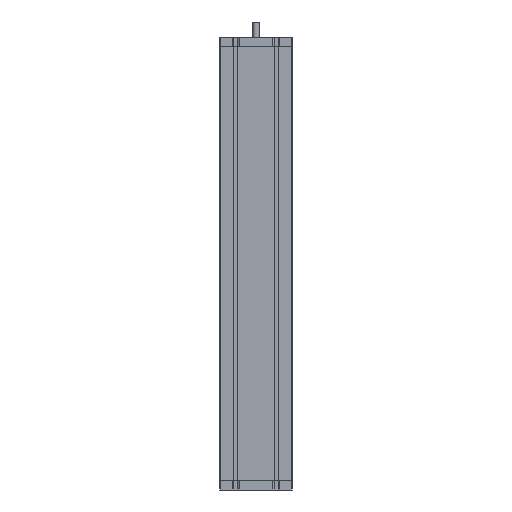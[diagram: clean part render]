
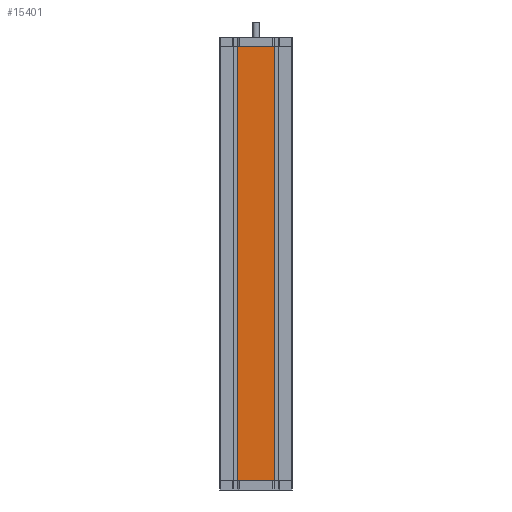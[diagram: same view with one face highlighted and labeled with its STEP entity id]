
A CAD part, front view. The second image highlights one B-rep face of the part: STEP entity #15401.
In plain terms, the highlighted planar face has unit normal (0, -1, 0).
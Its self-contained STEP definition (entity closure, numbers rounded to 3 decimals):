
#230 = ORIENTED_EDGE ( 'NONE', *, *, #13865, .T. ) ;
#345 = EDGE_CURVE ( 'NONE', #8070, #6546, #12404, .T. ) ;
#952 = ORIENTED_EDGE ( 'NONE', *, *, #345, .F. ) ;
#993 = VERTEX_POINT ( 'NONE', #12971 ) ;
#1136 = VECTOR ( 'NONE', #12638, 1000. ) ;
#1351 = CARTESIAN_POINT ( 'NONE',  ( -40., 0., 480. ) ) ;
#2327 = LINE ( 'NONE', #12801, #1136 ) ;
#3691 = DIRECTION ( 'NONE',  ( 0., 1., 0. ) ) ;
#3768 = PLANE ( 'NONE',  #4747 ) ;
#4028 = VERTEX_POINT ( 'NONE', #5396 ) ;
#4747 = AXIS2_PLACEMENT_3D ( 'NONE', #16547, #3691, #13978 ) ;
#5195 = VECTOR ( 'NONE', #5267, 1000. ) ;
#5267 = DIRECTION ( 'NONE',  ( 1., 0., 0. ) ) ;
#5396 = CARTESIAN_POINT ( 'NONE',  ( -40., 0., 480. ) ) ;
#5636 = EDGE_CURVE ( 'NONE', #4028, #8070, #7642, .T. ) ;
#5732 = ORIENTED_EDGE ( 'NONE', *, *, #5636, .F. ) ;
#6015 = DIRECTION ( 'NONE',  ( 0., 0., -1. ) ) ;
#6546 = VERTEX_POINT ( 'NONE', #7650 ) ;
#6610 = DIRECTION ( 'NONE',  ( 0., 0., -1. ) ) ;
#7642 = LINE ( 'NONE', #10227, #5195 ) ;
#7650 = CARTESIAN_POINT ( 'NONE',  ( 40., 0., -480. ) ) ;
#7787 = LINE ( 'NONE', #1351, #14645 ) ;
#7806 = EDGE_LOOP ( 'NONE', ( #14011, #952, #5732, #230 ) ) ;
#8070 = VERTEX_POINT ( 'NONE', #11670 ) ;
#10227 = CARTESIAN_POINT ( 'NONE',  ( -40., 0., 480. ) ) ;
#11670 = CARTESIAN_POINT ( 'NONE',  ( 40., 0., 480. ) ) ;
#12404 = LINE ( 'NONE', #12488, #14105 ) ;
#12488 = CARTESIAN_POINT ( 'NONE',  ( 40., 0., 480. ) ) ;
#12638 = DIRECTION ( 'NONE',  ( 1., 0., 0. ) ) ;
#12801 = CARTESIAN_POINT ( 'NONE',  ( -40., 0., -480. ) ) ;
#12971 = CARTESIAN_POINT ( 'NONE',  ( -40., 0., -480. ) ) ;
#13119 = EDGE_CURVE ( 'NONE', #993, #6546, #2327, .T. ) ;
#13865 = EDGE_CURVE ( 'NONE', #4028, #993, #7787, .T. ) ;
#13978 = DIRECTION ( 'NONE',  ( 0., 0., 1. ) ) ;
#14011 = ORIENTED_EDGE ( 'NONE', *, *, #13119, .T. ) ;
#14105 = VECTOR ( 'NONE', #6015, 1000. ) ;
#14645 = VECTOR ( 'NONE', #6610, 1000. ) ;
#15401 = ADVANCED_FACE ( 'PLANAR_27', ( #16381 ), #3768, .F. ) ;
#16381 = FACE_OUTER_BOUND ( 'NONE', #7806, .T. ) ;
#16547 = CARTESIAN_POINT ( 'NONE',  ( -40., 0., 480. ) ) ;
